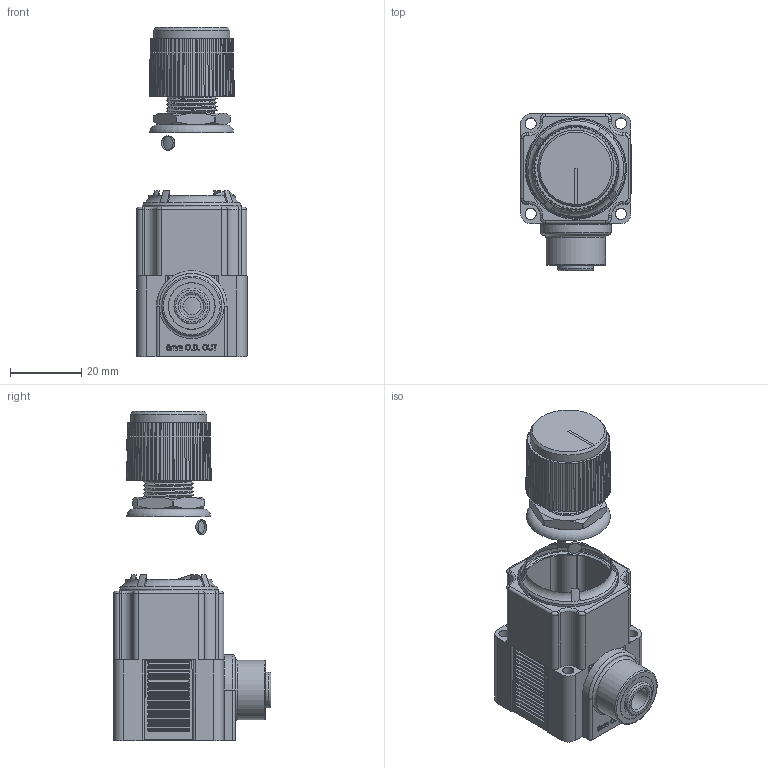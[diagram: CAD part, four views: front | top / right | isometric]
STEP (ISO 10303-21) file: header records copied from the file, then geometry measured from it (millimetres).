
FILE_DESCRIPTION(/* description */ (''),/* implementation_level */ '2;1');
FILE_NAME(/* name */ 'K:\Normteile INVENTOR\Air-Logic\Regulators\NR4000\NR 4___ 8 Push-In Fittings for 6 mm O.D. Tube Out.igs.ipt.stp',/* time_stamp */ '2020-05-27T10:51:17+02:00',/* author */ ('Paul'),/* organization */ (''),/* preprocessor_version */ 'ST-DEVELOPER v18',/* originating_system */ 'Autodesk Inventor 2020',/* authorisation */ '');
FILE_SCHEMA (('AUTOMOTIVE_DESIGN { 1 0 10303 214 3 1 1 }'));
Length unit declared in the file: inch
Products named in the file (1): NR 4___ 8 Push-In Fittings for 6 mm O.D. Tube Out.igs
Bounding box: 31.06 x 44.31 x 92.65 mm (x, y, z)
Volume: 57633.3 mm3; surface area: 20308.2 mm2
Topology: 1 solids, 1 shells, 1059 faces, 2738 edges, 1757 vertices
Faces by surface type: plane 508, cylinder 333, bspline 110, cone 82, torus 26
Full cylindrical faces by diameter (mm): 3.175 x4, 3.988 x1, 4.039 x1, 4.064 x1, 4.953 x1, 6.553 x1, 9.169 x1, 9.398 x1, 10.033 x1, 12.903 x1, 13.081 x1, 13.157 x1, 14.288 x2, 16.764 x1, 19.406 x1, 21.476 x1, 26.264 x1, 27.94 x1, 28.575 x1
Entity records: 41671 total; most frequent: CARTESIAN_POINT 14721, ORIENTED_EDGE 5476, DIRECTION 5339, EDGE_CURVE 2738, AXIS2_PLACEMENT_3D 1990, VERTEX_POINT 1757, LINE 1359, VECTOR 1359
